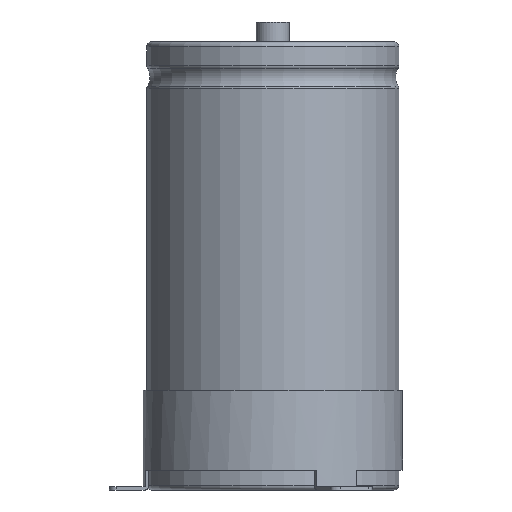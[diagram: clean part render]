
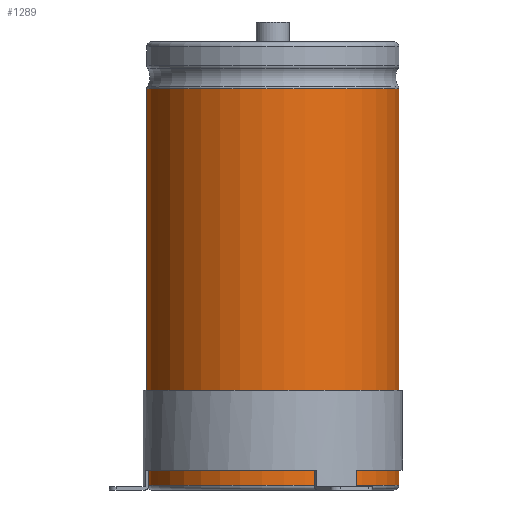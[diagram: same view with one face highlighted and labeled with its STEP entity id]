
A CAD part, front view. The second image highlights one B-rep face of the part: STEP entity #1289.
In plain terms, the highlighted cylindrical face has radius 38.1 mm (diameter 76.2 mm), a partial arc.
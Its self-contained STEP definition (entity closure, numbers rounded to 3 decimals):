
#233=LINE('',#6601,#447);
#234=LINE('',#6605,#448);
#447=VECTOR('',#5224,1.);
#448=VECTOR('',#5227,1.);
#695=FACE_OUTER_BOUND('',#1741,.T.);
#1289=ADVANCED_FACE('',(#695),#1519,.T.);
#1519=CYLINDRICAL_SURFACE('',#4585,38.1);
#1741=EDGE_LOOP('',(#2147,#2148,#2149,#2150));
#2147=ORIENTED_EDGE('',*,*,#3702,.T.);
#2148=ORIENTED_EDGE('',*,*,#3703,.T.);
#2149=ORIENTED_EDGE('',*,*,#3704,.F.);
#2150=ORIENTED_EDGE('',*,*,#3705,.F.);
#3274=VERTEX_POINT('',#6594);
#3276=VERTEX_POINT('',#6598);
#3277=VERTEX_POINT('',#6602);
#3278=VERTEX_POINT('',#6604);
#3702=EDGE_CURVE('',#3274,#3276,#4267,.T.);
#3703=EDGE_CURVE('',#3276,#3277,#233,.T.);
#3704=EDGE_CURVE('',#3278,#3277,#4268,.T.);
#3705=EDGE_CURVE('',#3274,#3278,#234,.T.);
#4267=CIRCLE('',#4582,38.1);
#4268=CIRCLE('',#4584,38.1);
#4582=AXIS2_PLACEMENT_3D('',#6599,#5220,#5221);
#4584=AXIS2_PLACEMENT_3D('',#6603,#5225,#5226);
#4585=AXIS2_PLACEMENT_3D('',#6606,#5228,#5229);
#5220=DIRECTION('',(0.,0.,-1.));
#5221=DIRECTION('',(0.,1.,0.));
#5224=DIRECTION('',(0.,0.,-1.));
#5225=DIRECTION('',(0.,0.,-1.));
#5226=DIRECTION('',(0.,1.,0.));
#5227=DIRECTION('',(0.,0.,-1.));
#5228=DIRECTION('',(0.,0.,-1.));
#5229=DIRECTION('',(0.,1.,0.));
#6594=CARTESIAN_POINT('',(3.983,37.891,120.9));
#6598=CARTESIAN_POINT('',(-3.983,37.891,120.9));
#6599=CARTESIAN_POINT('',(0.,0.,120.9));
#6601=CARTESIAN_POINT('',(-3.983,37.891,120.9));
#6602=CARTESIAN_POINT('',(-3.983,37.891,1.5));
#6603=CARTESIAN_POINT('',(0.,0.,1.5));
#6604=CARTESIAN_POINT('',(3.983,37.891,1.5));
#6605=CARTESIAN_POINT('',(3.983,37.891,120.9));
#6606=CARTESIAN_POINT('',(0.,0.,0.));
